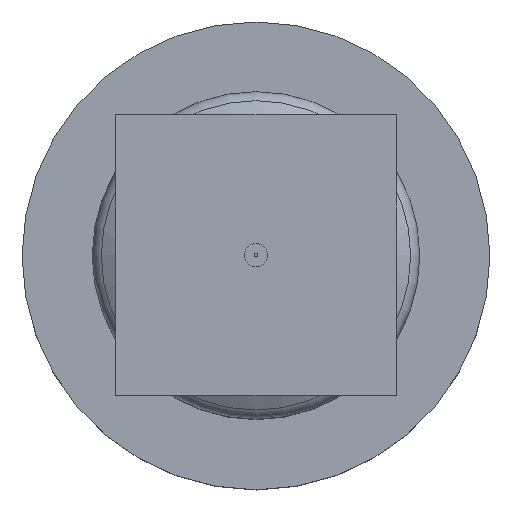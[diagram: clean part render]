
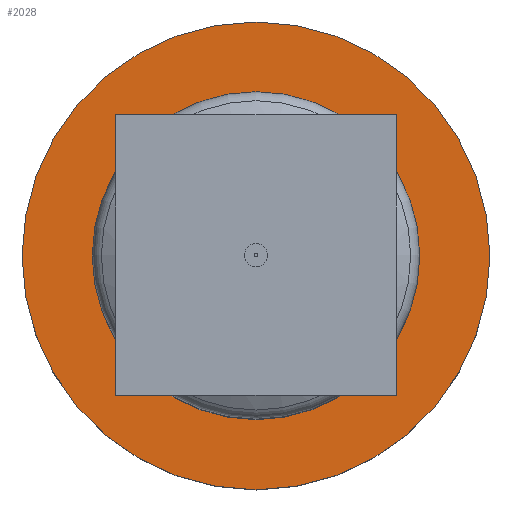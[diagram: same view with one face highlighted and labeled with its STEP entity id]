
A CAD part, top view. The second image highlights one B-rep face of the part: STEP entity #2028.
In plain terms, the highlighted planar face has unit normal (0, 0, 1).
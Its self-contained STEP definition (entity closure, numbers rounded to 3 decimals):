
#85 = CARTESIAN_POINT ( 'NONE',  ( 0., 0., 27. ) ) ;
#156 = DIRECTION ( 'NONE',  ( -1., 0., 0. ) ) ;
#196 = VERTEX_POINT ( 'NONE', #1026 ) ;
#955 = EDGE_CURVE ( 'NONE', #6486, #6486, #1934, .T. ) ;
#1026 = CARTESIAN_POINT ( 'NONE',  ( -25., 0., 27. ) ) ;
#1104 = DIRECTION ( 'NONE',  ( 0., 0., -1. ) ) ;
#1535 = EDGE_CURVE ( 'NONE', #196, #196, #5077, .T. ) ;
#1926 = AXIS2_PLACEMENT_3D ( 'NONE', #3227, #4277, #156 ) ;
#1934 = CIRCLE ( 'NONE', #5735, 17.5 ) ;
#2028 = ADVANCED_FACE ( 'NONE', ( #4151, #4234 ), #2717, .F. ) ;
#2089 = DIRECTION ( 'NONE',  ( -1., 0., 0. ) ) ;
#2174 = DIRECTION ( 'NONE',  ( -1., 0., 0. ) ) ;
#2323 = AXIS2_PLACEMENT_3D ( 'NONE', #4175, #1104, #2174 ) ;
#2514 = EDGE_LOOP ( 'NONE', ( #5356 ) ) ;
#2717 = PLANE ( 'NONE',  #1926 ) ;
#3117 = CARTESIAN_POINT ( 'NONE',  ( -17.5, 0., 27. ) ) ;
#3227 = CARTESIAN_POINT ( 'NONE',  ( 0., 0., 27. ) ) ;
#4151 = FACE_BOUND ( 'NONE', #2514, .T. ) ;
#4175 = CARTESIAN_POINT ( 'NONE',  ( 0., 0., 27. ) ) ;
#4234 = FACE_OUTER_BOUND ( 'NONE', #4901, .T. ) ;
#4277 = DIRECTION ( 'NONE',  ( 0., 0., -1. ) ) ;
#4901 = EDGE_LOOP ( 'NONE', ( #6079 ) ) ;
#5077 = CIRCLE ( 'NONE', #2323, 25. ) ;
#5356 = ORIENTED_EDGE ( 'NONE', *, *, #955, .T. ) ;
#5735 = AXIS2_PLACEMENT_3D ( 'NONE', #85, #6107, #2089 ) ;
#6079 = ORIENTED_EDGE ( 'NONE', *, *, #1535, .F. ) ;
#6107 = DIRECTION ( 'NONE',  ( 0., 0., -1. ) ) ;
#6486 = VERTEX_POINT ( 'NONE', #3117 ) ;
